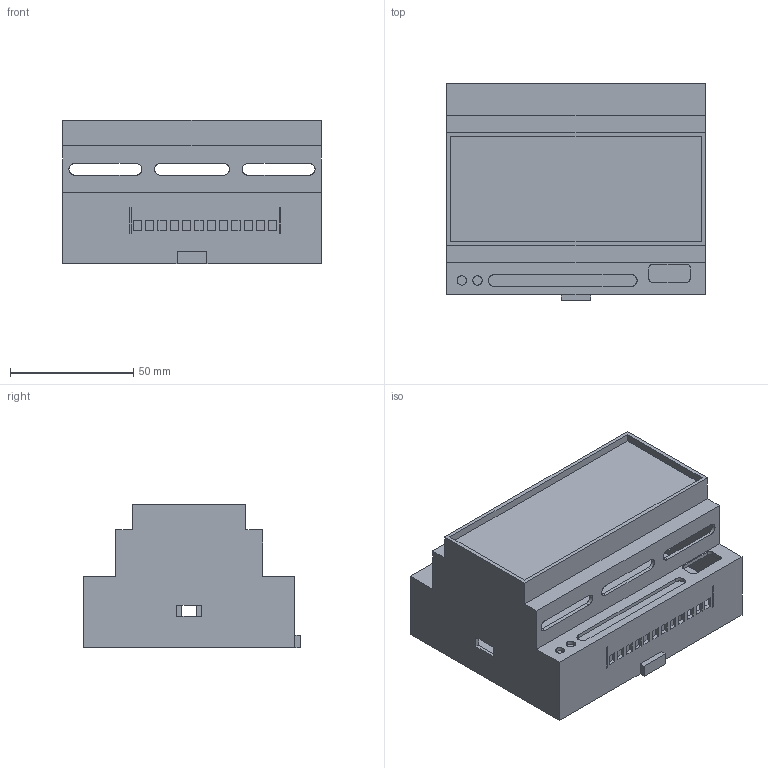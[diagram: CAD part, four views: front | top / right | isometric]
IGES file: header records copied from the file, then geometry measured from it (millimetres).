
Global section: file name: J:\WIP\RPS\3D(Models)\Tension Controls\MTSA.igs; native system: AutoCAD-17.2s (LMS Tech) (Microsoft Windows NT Version 5.1 (x86)); preprocessor: Autodesk IGES Translator Mechanical Desktop 2009 (Feb 21 2008) from Autodesk, Inc.; date: 20090116.133546; units: inch
Bounding box: 105 x 88.11 x 58.42 mm (x, y, z)
Surface area: 69726 mm2 (no closed solid volume)
Topology: 0 solids, 0 shells, 154 faces, 1014 edges, 1014 vertices
Faces by surface type: bspline 154
